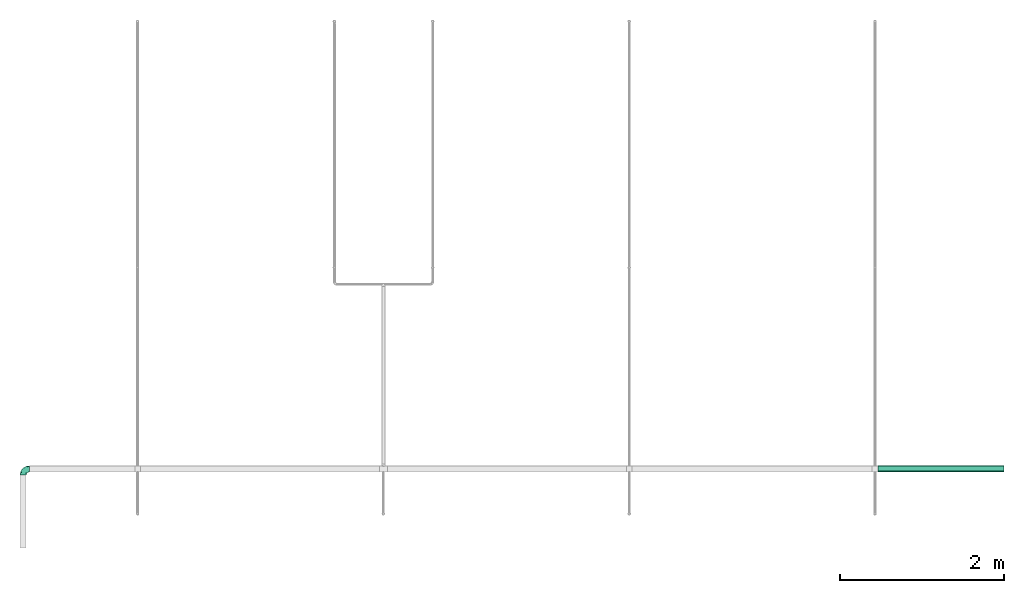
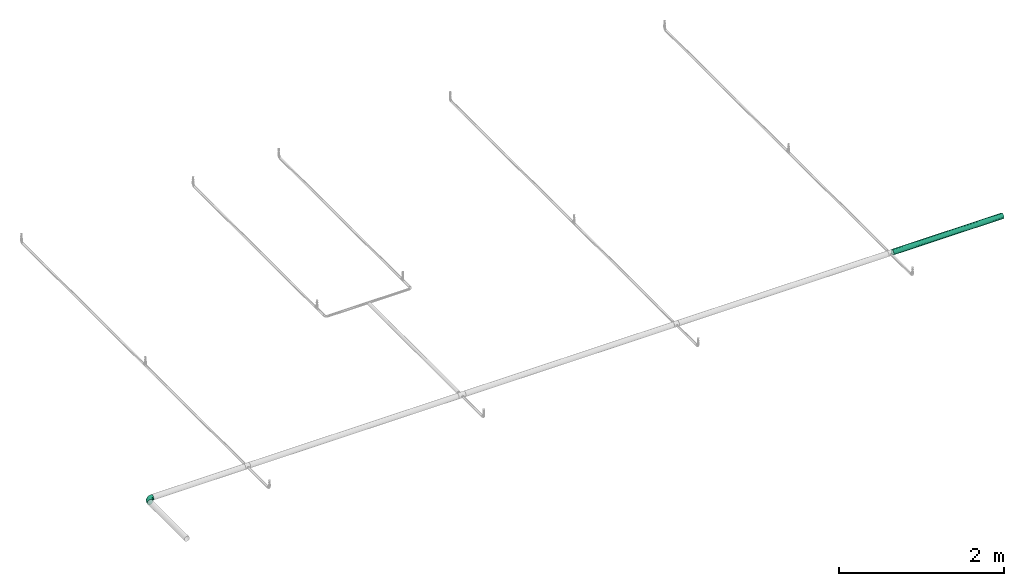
# One storey, part 30 of 31: 1 flow fitting, 1 flow segment.
"""IFC2X3 building model written with IfcOpenShell, lengths in millimetres."""

import ifcopenshell
import ifcopenshell.guid

model = None  # the IFC model being written
_history = None  # IfcOwnerHistory: only IFC2X3 demands one
_inside = {}  # id of a spatial element -> (the spatial element, [elements in it])
_under = {}  # id of a project, library or spatial element -> (it, [spatial elements below it])
_declared = {}  # id of a project -> (the project, [libraries it declares])
_typed = {}  # id of a type object -> (the type object, [elements of that type])
_made_of = {}  # id of a material, layer set ... -> (it, [elements and type objects made of it])


def new_model(schema):
    """Start an empty IFC model of exactly this schema.

    Asked for "IFC4X3", IfcOpenShell would pick the latest addendum, in which some entities
    have other attributes; the version numbers below select the first issue.
    IFC2X3 requires an IfcOwnerHistory on every rooted entity: one is made here for all.
    """
    global model, _history
    if schema == "IFC4X3":
        model = ifcopenshell.file(schema_version=(4, 3, 0, 0))
    else:
        model = ifcopenshell.file(schema=schema)
    _inside.clear()
    _under.clear()
    _declared.clear()
    _typed.clear()
    _made_of.clear()
    _history = None
    if model.schema == "IFC2X3":
        org = make("IfcOrganization", Name="unknown")
        user = make(
            "IfcPersonAndOrganization",
            ThePerson=make("IfcPerson", FamilyName="unknown"),
            TheOrganization=org,
        )
        app = make(
            "IfcApplication",
            ApplicationDeveloper=org,
            Version="unknown",
            ApplicationFullName="unknown",
            ApplicationIdentifier="unknown",
        )
        _history = make(
            "IfcOwnerHistory",
            OwningUser=user,
            OwningApplication=app,
            ChangeAction="ADDED",
            CreationDate=0,
        )
    return model


def make(cls, **values):
    """One entity of the class cls with the attributes given. An attribute that is None is left unset."""
    return model.create_entity(
        cls, **{name: value for name, value in values.items() if value is not None}
    )


def entity(cls, *values):
    """Any entity or typed value of the class cls, its attributes in the order of the schema. None: left unset."""
    e = model.create_entity(cls)
    for i, value in enumerate(values):
        if value is not None:
            e[i] = value
    return e


def rooted(cls, **values):
    """An entity with a GlobalId (a new one), such as an element, a storey or a relation."""
    return make(cls, GlobalId=ifcopenshell.guid.new(), OwnerHistory=_history, **values)


def si_unit(unit_type, name, prefix=None):
    """IfcSIUnit, for example si_unit("LENGTHUNIT", "METRE", prefix="MILLI")."""
    return make("IfcSIUnit", UnitType=unit_type, Prefix=prefix, Name=name)


def converted_unit(unit_type, name, factor, base, dimensions=None, offset=None):
    """IfcConversionBasedUnit, such as the inch: factor (a typed value) times the base unit."""
    return make(
        "IfcConversionBasedUnit"
        if offset is None
        else "IfcConversionBasedUnitWithOffset",
        ConversionOffset=offset,
        Dimensions=None
        if dimensions is None
        else entity("IfcDimensionalExponents", *dimensions),
        UnitType=unit_type,
        Name=name,
        ConversionFactor=make(
            "IfcMeasureWithUnit", ValueComponent=factor, UnitComponent=base
        ),
    )


def derived_unit(unit_type, elements):
    """IfcDerivedUnit: a product of units, each with its exponent."""
    return make(
        "IfcDerivedUnit",
        Elements=[
            make("IfcDerivedUnitElement", Unit=unit, Exponent=power)
            for unit, power in elements
        ],
        UnitType=unit_type,
    )


def assignment(units):
    """IfcUnitAssignment: the units of a project."""
    return None if units is None else make("IfcUnitAssignment", Units=units)


def point(xyz):
    """IfcCartesianPoint."""
    return None if xyz is None else make("IfcCartesianPoint", Coordinates=xyz)


def direction(xyz):
    """IfcDirection."""
    return None if xyz is None else make("IfcDirection", DirectionRatios=xyz)


def frame(location, z_axis=None, x_axis=None):
    """IfcAxis2Placement3D, a coordinate frame: its origin and axes. An axis left out is left unset."""
    return make(
        "IfcAxis2Placement3D",
        Location=point(location),
        Axis=direction(z_axis),
        RefDirection=direction(x_axis),
    )


def origin_with_axes():
    """The frame at (0, 0, 0) with the z axis (0, 0, 1) and the x axis (1, 0, 0) written out."""
    return frame((0.0, 0.0, 0.0), z_axis=(0.0, 0.0, 1.0), x_axis=(1.0, 0.0, 0.0))


def place(relative_to, where):
    """IfcLocalPlacement: puts the frame where relative to a parent placement (None: the world)."""
    return make(
        "IfcLocalPlacement", PlacementRelTo=relative_to, RelativePlacement=where
    )


def context(
    kind, dimensions, precision=None, world=None, true_north=None, identifier=None
):
    """IfcGeometricRepresentationContext, for example the 3D "Model" context."""
    return make(
        "IfcGeometricRepresentationContext",
        ContextIdentifier=identifier,
        ContextType=kind,
        CoordinateSpaceDimension=dimensions,
        Precision=precision,
        WorldCoordinateSystem=world,
        TrueNorth=true_north,
    )


def subcontext(parent, identifier, kind, view, scale=None):
    """IfcGeometricRepresentationSubContext, for example "Body" below "Model"."""
    return make(
        "IfcGeometricRepresentationSubContext",
        ContextIdentifier=identifier,
        ContextType=kind,
        ParentContext=parent,
        TargetScale=scale,
        TargetView=view,
    )


def project(units=None, contexts=None):
    """IfcProject with its units and contexts."""
    return rooted(
        "IfcProject",
        Name="project",
        RepresentationContexts=contexts,
        UnitsInContext=assignment(units),
    )


def spatial(cls, under=None, at=None, **own):
    """A site, building, storey or space (cls), placed at a placement, below another one or the project."""
    s = rooted(cls, ObjectPlacement=at, **own)
    if under is not None:
        _under.setdefault(under.id(), (under, []))[1].append(s)
    return s


def faces_of(points, faces, orient=None, outer=None):
    """IfcFace entities. A face is a list of loops; a loop is a list of indices into points, from 0.

    orient and outer hold one flag for each loop. By default every Orientation is true, the
    first loop of a face is its IfcFaceOuterBound and the others are IfcFaceBound.
    """
    made = []
    for i, loops in enumerate(faces):
        bounds = []
        for j, loop in enumerate(loops):
            is_outer = j == 0 if outer is None else outer[i][j]
            bounds.append(
                make(
                    "IfcFaceOuterBound" if is_outer else "IfcFaceBound",
                    Bound=make("IfcPolyLoop", Polygon=[points[k] for k in loop]),
                    Orientation=True if orient is None else orient[i][j],
                )
            )
        made.append(make("IfcFace", Bounds=bounds))
    return made


def open_shell(faces, orient=None, outer=None):
    """The faces of one IfcOpenShell. surface_model builds it on its shared points."""
    return ("IfcOpenShell", faces, orient, outer)


def faceted_brep(points, faces, orient=None, outer=None, voids=None):
    """IfcFacetedBrep: a solid bounded by flat faces; with voids (closed shells), ...WithVoids."""
    shared = [point(p) for p in points]
    hull = make("IfcClosedShell", CfsFaces=faces_of(shared, faces, orient, outer))
    if voids is None:
        return make("IfcFacetedBrep", Outer=hull)
    return make(
        "IfcFacetedBrepWithVoids",
        Outer=hull,
        Voids=[
            make(cls, CfsFaces=faces_of(shared, fs, o, b)) for cls, fs, o, b in voids
        ],
    )


def surface_model(cls, points, shells):
    """IfcFaceBasedSurfaceModel or IfcShellBasedSurfaceModel (cls): surfaces that need not close."""
    shared = [point(p) for p in points]
    made = [make(c, CfsFaces=faces_of(shared, fs, o, b)) for c, fs, o, b in shells]
    if cls == "IfcFaceBasedSurfaceModel":
        return make(cls, FbsmFaces=made)
    return make(cls, SbsmBoundary=made)


def shape(context_of_items, identifier, shape_type, items):
    """IfcShapeRepresentation: the items that make up one representation, for example the "Body"."""
    return make(
        "IfcShapeRepresentation",
        ContextOfItems=context_of_items,
        RepresentationIdentifier=identifier,
        RepresentationType=shape_type,
        Items=items,
    )


def source(mapping_origin, context_of_items, identifier, shape_type, items):
    """IfcRepresentationMap: a shape defined once, which mapped items show again and again."""
    return make(
        "IfcRepresentationMap",
        MappingOrigin=mapping_origin,
        MappedRepresentation=shape(context_of_items, identifier, shape_type, items),
    )


def transform(
    local_origin,
    x_axis=None,
    y_axis=None,
    z_axis=None,
    scale=None,
    scale2=None,
    scale3=None,
    uniform=True,
):
    """IfcCartesianTransformationOperator3D, or its non-uniform kind. x_axis, y_axis, z_axis: its Axis1, 2, 3."""
    if uniform:
        return make(
            "IfcCartesianTransformationOperator3D",
            Axis1=direction(x_axis),
            Axis2=direction(y_axis),
            LocalOrigin=point(local_origin),
            Scale=scale,
            Axis3=direction(z_axis),
        )
    return make(
        "IfcCartesianTransformationOperator3DnonUniform",
        Axis1=direction(x_axis),
        Axis2=direction(y_axis),
        LocalOrigin=point(local_origin),
        Scale=scale,
        Axis3=direction(z_axis),
        Scale2=scale2,
        Scale3=scale3,
    )


def mapped(mapping_source, mapping_target):
    """IfcMappedItem: shows the shape of a source again, moved by a transform."""
    return make(
        "IfcMappedItem", MappingSource=mapping_source, MappingTarget=mapping_target
    )


def made_of(thing, what):
    """Note that an element or type object is made of a material, layer set ...; save() writes the relation."""
    if what is not None:
        _made_of.setdefault(what.id(), (what, []))[1].append(thing)
    return thing


def type_object(cls, material=None, **own):
    """A type object (cls), such as IfcWallType, which elements share."""
    return made_of(rooted(cls, **own), material)


def element(
    cls,
    number,
    at=None,
    inside=None,
    cuts=None,
    type_object=None,
    material=None,
    context=None,
    identifier="Body",
    shape_type=None,
    held_by="IfcProductDefinitionShape",
    body=None,
    shapes=None,
    **own,
):
    """One element of the class cls, such as IfcWall. Its Tag is "e" and its number.

    at: its placement. inside: the storey or other place that contains it. cuts: it is an
    opening in that element (IfcRelVoidsElement). A single representation is given by context,
    identifier, shape_type and body (its items); several are given by shapes. held_by: the class
    of the entity that holds the representations. save() writes the other relations.
    """
    e = rooted(cls, Tag="e%d" % number, ObjectPlacement=at, **own)
    if body is not None:
        shapes = [shape(context, identifier, shape_type, body)]
    if shapes is not None:
        e.Representation = make(held_by, Representations=shapes)
    if inside is not None:
        _inside.setdefault(inside.id(), (inside, []))[1].append(e)
    if cuts is not None:
        rooted(
            "IfcRelVoidsElement", RelatingBuildingElement=cuts, RelatedOpeningElement=e
        )
    if type_object is not None:
        _typed.setdefault(type_object.id(), (type_object, []))[1].append(e)
    return made_of(e, material)


def aggregate(whole, parts):
    """IfcRelAggregates: a whole, such as a stair, and the parts it consists of."""
    return rooted("IfcRelAggregates", RelatingObject=whole, RelatedObjects=parts)


def save(model, path):
    """Write the relations noted so far, then the file.

    IfcRelAggregates (storeys below a building ...), IfcRelContainedInSpatialStructure (elements
    in a storey), IfcRelDefinesByType, IfcRelAssociatesMaterial and IfcRelDeclares: one each for
    every whole, place, type object, material and project.
    """
    for whole, parts in _under.values():
        aggregate(whole, parts)
    for where, things in _inside.values():
        rooted(
            "IfcRelContainedInSpatialStructure",
            RelatedElements=things,
            RelatingStructure=where,
        )
    for kind, things in _typed.values():
        rooted("IfcRelDefinesByType", RelatedObjects=things, RelatingType=kind)
    for what, things in _made_of.values():
        rooted("IfcRelAssociatesMaterial", RelatedObjects=things, RelatingMaterial=what)
    for by, libraries in _declared.values():
        rooted("IfcRelDeclares", RelatingContext=by, RelatedDefinitions=libraries)
    model.write(path)


model = new_model("IFC2X3")

# Units and contexts
model_context = context("Model", 3, precision=0.01, world=frame((0.0, 4.29681676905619e-09, 0.0)), true_north=direction((4.01073788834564e-13, 1.0)))
plan_context = context("Plan", 3, precision=0.01, world=frame((0.0, 4.29681676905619e-09, 0.0)), true_north=direction((4.01073788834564e-13, 1.0)))
body_context = subcontext(model_context, "Body", "Model", "MODEL_VIEW")
ifc_project = project(units=[converted_unit("PLANEANGLEUNIT", "DEGREE", entity("IfcPositiveLengthMeasure", 0.0174532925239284), si_unit("PLANEANGLEUNIT", "RADIAN"), dimensions=[0, 0, 0, 0, 0, 0, 0]), si_unit("AREAUNIT", "SQUARE_METRE"), si_unit("LENGTHUNIT", "METRE", prefix="MILLI"), si_unit("MASSUNIT", "GRAM", prefix="KILO"), si_unit("POWERUNIT", "WATT"), si_unit("PRESSUREUNIT", "PASCAL", prefix="KILO"), si_unit("FORCEUNIT", "NEWTON", prefix="KILO"), si_unit("ELECTRICVOLTAGEUNIT", "VOLT"), si_unit("ELECTRICCURRENTUNIT", "AMPERE"), si_unit("THERMODYNAMICTEMPERATUREUNIT", "DEGREE_CELSIUS"), si_unit("TIMEUNIT", "SECOND"), si_unit("VOLUMEUNIT", "CUBIC_METRE"), derived_unit("LINEARVELOCITYUNIT", [(si_unit("LENGTHUNIT", "METRE"), 1), (si_unit("TIMEUNIT", "SECOND"), -1)]), derived_unit("VOLUMETRICFLOWRATEUNIT", [(si_unit("VOLUMEUNIT", "CUBIC_METRE"), 1), (si_unit("TIMEUNIT", "SECOND"), -1)]), derived_unit("THERMALTRANSMITTANCEUNIT", [(si_unit("POWERUNIT", "WATT"), 1), (si_unit("THERMODYNAMICTEMPERATUREUNIT", "KELVIN"), -1), (si_unit("AREAUNIT", "SQUARE_METRE"), -1)]), derived_unit("SOUNDPRESSUREUNIT", [(si_unit("PRESSUREUNIT", "PASCAL"), 1)])], contexts=[model_context, plan_context])

# Site, building, storey
site_placement = place(None, frame((0.0, -4.29681676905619e-09, 0.0), z_axis=(0.0, 0.0, 1.0), x_axis=(1.0, 0.0, 0.0)))
site = spatial("IfcSite", under=ifc_project, at=site_placement, CompositionType="ELEMENT")
building_placement = place(site_placement, frame((0.0, 4.29681676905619e-09, 0.0), z_axis=(0.0, 0.0, 1.0), x_axis=(1.0, 0.0, 0.0)))
building = spatial("IfcBuilding", under=site, at=building_placement, Name="mc-building", CompositionType="ELEMENT")
storey_placement = place(building_placement, frame((0.0, 0.0, 200300.0), z_axis=(0.0, 0.0, 1.0), x_axis=(1.0, 0.0, 0.0)))
storey = spatial("IfcBuildingStorey", under=building, at=storey_placement, Name="Nivå C", CompositionType="ELEMENT", Elevation=200300.0)

# Flow fitting
pipe_fitting_type = type_object("IfcPipeFittingType", Name="magi_pipe_fe_elbow_short_001", PredefinedType="BEND")
shared_shape = source(origin_with_axes(), body_context, "Body", "SurfaceModel", [
    surface_model("IfcShellBasedSurfaceModel", [(-76.2, 19.05, -32.99557), (-76.2, 9.86101, -36.80177), (-76.2, 0.0, -38.1), (-76.2, 26.94077, -26.94077), (-76.2, 36.80177, -9.86101), (-76.2, 32.99557, -19.05), (-76.2, -26.94077, -26.94077), (-76.2, -36.80177, -9.86101), (-76.2, -19.05, -32.99557), (-76.2, -9.86101, -36.80177), (-76.2, -32.99557, -19.05), (-76.2, -38.1, 0.0), (-76.2, -36.80177, 9.86101), (-76.2, 26.94077, 26.94077), (-76.2, 36.80177, 9.86101), (-76.2, 32.99557, 19.05), (-76.2, 9.86101, 36.80177), (-76.2, 19.05, 32.99557), (-76.2, 0.0, 38.1), (-76.2, -32.99557, 19.05), (-76.2, -26.94077, 26.94077), (-76.2, -9.86101, 36.80177), (-76.2, -19.05, 32.99557), (-76.2, 38.1, 0.0), (0.0, 76.2, -38.1), (-9.86101, 76.2, -36.80177), (-19.05, 76.2, -32.99557), (-26.94077, 76.2, -26.94077), (-32.99557, 76.2, -19.05), (-36.80177, 76.2, -9.86101), (26.94077, 76.2, -26.94077), (36.80177, 76.2, -9.86101), (9.86101, 76.2, -36.80177), (19.05, 76.2, -32.99557), (32.99557, 76.2, -19.05), (36.80177, 76.2, 9.86101), (38.1, 76.2, 0.0), (-36.80177, 76.2, 9.86101), (-26.94077, 76.2, 26.94077), (-32.99557, 76.2, 19.05), (-19.05, 76.2, 32.99557), (-9.86101, 76.2, 36.80177), (0.0, 76.2, 38.1), (26.94077, 76.2, 26.94077), (32.99557, 76.2, 19.05), (9.86101, 76.2, 36.80177), (19.05, 76.2, 32.99557), (-38.1, 76.2, 0.0), (-51.47253, -33.41495, 11.97429), (-55.87921, -29.59735, 21.38675), (-40.87936, -32.50576, 0.0), (-57.46182, -35.13216, 0.0), (-9.7569, -13.15819, 14.69187), (-2.65186, -10.17769, 8.01257), (2.20082, -2.20082, 15.78668), (-58.2046, -5.04721, 37.4484), (-53.35237, 5.84022, 38.03506), (13.01533, 9.30417, 14.3119), (23.26567, 31.00373, 18.95093), (8.92292, 13.82363, 24.31711), (-37.93212, -0.34191, 36.92855), (-55.73356, -14.37507, 34.26516), (-29.5907, -8.99996, 31.84562), (-48.87429, -21.76577, 28.30344), (-34.13735, -29.20196, 7.83838), (-24.94775, -24.3882, 0.0), (-13.82363, -8.92292, 24.31711), (-6.80575, 6.80575, 31.14998), (-37.24299, 60.80967, 16.55959), (-31.82754, 59.31737, 25.03043), (-14.22204, 65.71998, 35.68746), (-5.22176, 56.99222, 38.00642), (-58.73143, 14.94265, 35.9909), (-9.94517, 25.51838, 37.4103), (-18.93111, 6.98952, 35.57772), (-3.89226, 20.58438, 35.01344), (-65.91802, 23.07271, 31.04479), (-13.24152, 37.4675, 38.03164), (-28.22122, 28.22122, 37.17425), (-22.68668, 16.64938, 37.90374), (-60.23482, 40.58212, 8.37688), (-60.8286, 37.23683, 16.55705), (-47.30619, 47.30619, 14.2421), (-59.55922, 31.76102, 25.00381), (21.76577, 48.87429, 28.30344), (-39.51357, 50.50487, 21.56421), (14.37507, 55.73356, 34.26516), (29.59735, 55.87921, 21.38675), (33.41495, 51.47253, 11.97429), (-9.01615, -16.27064, 0.0), (-18.50075, -20.95742, 9.87146), (5.04721, 58.2046, 37.4484), (-41.86713, 16.32002, 37.41817), (-37.38612, 9.33613, 38.08374), (24.3882, 24.94775, 0.0), (29.20196, 34.13735, 7.83838), (20.95742, 18.50075, 9.87146), (35.13216, 57.46182, 0.0), (-40.50473, 25.85184, 35.24027), (-31.00373, -23.26567, 18.95093), (-27.62233, 49.24446, 32.02197), (-23.27638, 63.88751, 31.20285), (-40.10509, 61.46399, 8.17366), (-47.75011, 49.97248, 6.70535), (17.55292, 30.69115, 25.82241), (8.99996, 29.5907, 31.84562), (-43.20443, 57.15, 0.0), (-35.27088, 40.23417, 31.3068), (-52.46543, 25.86294, 32.08413), (-0.58232, 0.58231, 22.50977), (-21.74145, 39.43998, 36.62577), (-30.35377, 36.8865, 34.66668), (-16.47755, 51.62643, 36.28492), (-40.16133, 42.54966, 26.98796), (-48.93373, 40.93898, 21.24545), (0.34191, 37.93212, 36.92855), (-30.54899, -16.70018, 26.56572), (10.38979, 2.76708, 7.59679), (32.50576, 40.87936, 0.0), (16.27064, 9.01615, 0.0), (-57.15, 43.20443, 0.0), (3.62725, -3.62725, 0.0), (-56.18403, 32.81229, -25.37784), (-60.79374, 37.24818, -16.56172), (-31.12583, -9.61531, -31.96506), (-33.08389, -0.47526, -36.23756), (-15.30809, -0.63756, -31.219), (-60.31522, 4.8175, -37.976), (-55.58208, -34.10815, -12.42093), (-47.87166, -28.25416, -20.6363), (-36.35476, -28.57081, -12.78243), (-55.4317, 15.55274, -36.12913), (-41.97308, 9.00674, -38.09177), (-32.8123, 56.18403, -25.37784), (-61.68117, 39.97816, -8.33686), (-23.91371, 59.81378, -31.51803), (-15.55274, 55.4317, -36.12913), (-48.48008, 48.48008, -9.09668), (22.76239, 55.12076, -28.76608), (13.14871, 48.24989, -33.88525), (15.02018, 64.34702, -34.67535), (-7.42295, -13.4022, -10.03386), (-7.53093, -9.8797, -17.36177), (4.09889, -3.23385, -10.05311), (-22.23209, 20.60173, -38.07837), (-36.11879, 22.54399, -36.96599), (-59.81378, 23.91371, -31.51803), (-64.14494, -30.32973, -22.13621), (-37.06617, 43.2809, -28.69704), (-35.21221, 35.21221, -33.45314), (-46.56802, 32.18433, -30.26847), (3.32253, -0.70027, -16.3296), (-55.12076, -22.76239, -28.76608), (28.25416, 47.87166, -20.6363), (34.10815, 55.58208, -12.42093), (28.57081, 36.35476, -12.78243), (-64.34702, -15.02018, -34.67535), (4.80394, 56.13349, -37.40338), (-24.08639, -18.54476, -20.78452), (-28.44745, -15.54194, -26.65272), (-13.81153, -9.41447, -23.82138), (-41.58053, -17.39667, -29.91543), (-48.24989, -13.14871, -33.88525), (-56.1335, -4.80394, -37.40338), (-28.5499, 46.87201, -32.27447), (-39.97816, 61.68117, -8.33686), (-4.8175, 60.31522, -37.976), (-13.45022, 13.45022, -35.97664), (0.47526, 33.08389, -36.23756), (1.60394, 17.89715, -31.77365), (-37.24818, 60.79374, -16.56172), (-45.75928, 45.75928, -18.77942), (30.32973, 64.14494, -22.13621), (22.08018, 30.6107, -20.46174), (12.28189, 14.44402, -21.13272), (15.54194, 28.44745, -26.65272), (7.87454, 32.5264, -33.28409), (-9.00674, 41.97308, -38.09177), (-46.32128, 24.51975, -34.33978), (-22.71812, 37.0764, -36.7817), (-0.36118, 0.36118, -22.07635), (-17.64772, -21.30183, -6.55407), (19.53658, 18.92928, -14.18962), (21.30183, 17.64772, -6.55407), (4.4885, 11.61303, -26.72553), (-18.92929, -19.53658, -14.18962)], [open_shell([[[0, 1, 2]], [[3, 0, 2]], [[4, 5, 3]], [[6, 3, 2]], [[4, 3, 7]], [[8, 6, 9]], [[6, 2, 9]], [[10, 7, 6]], [[6, 7, 3]], [[11, 12, 7]], [[12, 4, 7]], [[13, 14, 4]], [[15, 14, 13]], [[16, 17, 13]], [[4, 12, 13]], [[13, 18, 16]], [[19, 20, 12]], [[21, 12, 20]], [[22, 21, 20]], [[21, 13, 12]], [[21, 18, 13]], [[23, 4, 14]], [[24, 25, 26]], [[24, 26, 27]], [[27, 28, 29]], [[24, 27, 30]], [[31, 27, 29]], [[32, 30, 33]], [[32, 24, 30]], [[30, 31, 34]], [[27, 31, 30]], [[31, 35, 36]], [[31, 29, 35]], [[29, 37, 38]], [[38, 37, 39]], [[38, 40, 41]], [[29, 38, 35]], [[42, 38, 41]], [[35, 43, 44]], [[43, 35, 45]], [[43, 45, 46]], [[35, 38, 45]], [[38, 42, 45]], [[37, 29, 47]], [[48, 49, 19]], [[50, 48, 51]], [[52, 53, 54]], [[12, 48, 19]], [[12, 51, 48]], [[18, 55, 56]], [[19, 49, 20]], [[57, 58, 59]], [[60, 61, 62]], [[63, 22, 20]], [[63, 61, 22]], [[64, 50, 65]], [[62, 66, 67]], [[39, 68, 69]], [[41, 70, 71]], [[16, 72, 17]], [[73, 74, 75]], [[17, 76, 13]], [[21, 55, 18]], [[77, 78, 79]], [[80, 81, 82]], [[15, 83, 81]], [[84, 43, 46]], [[23, 14, 80]], [[14, 15, 81]], [[68, 85, 69]], [[83, 15, 13]], [[18, 56, 16]], [[46, 86, 84]], [[13, 76, 83]], [[87, 58, 88]], [[39, 37, 68]], [[89, 90, 65]], [[42, 91, 45]], [[65, 90, 64]], [[42, 41, 71]], [[92, 93, 79]], [[88, 35, 44]], [[44, 43, 87]], [[87, 88, 44]], [[94, 95, 96]], [[88, 97, 35]], [[98, 72, 92]], [[49, 99, 63]], [[69, 100, 101]], [[82, 102, 103]], [[104, 105, 59]], [[106, 102, 47]], [[98, 107, 108]], [[102, 82, 68]], [[86, 46, 45]], [[69, 38, 39]], [[109, 54, 57]], [[110, 100, 111]], [[22, 61, 21]], [[101, 40, 38]], [[70, 41, 40]], [[112, 77, 71]], [[84, 86, 105]], [[96, 95, 58]], [[100, 69, 113]], [[72, 16, 56]], [[108, 113, 83]], [[81, 114, 82]], [[112, 110, 77]], [[91, 71, 115]], [[62, 61, 63]], [[55, 61, 60]], [[116, 99, 66]], [[74, 62, 67]], [[91, 86, 45]], [[105, 86, 115]], [[75, 105, 115]], [[109, 67, 66]], [[59, 105, 67]], [[48, 64, 99]], [[99, 49, 48]], [[63, 20, 49]], [[43, 84, 87]], [[58, 87, 84]], [[92, 72, 56]], [[76, 72, 108]], [[102, 68, 37]], [[82, 114, 85]], [[98, 111, 107]], [[112, 70, 101]], [[114, 83, 113]], [[82, 103, 80]], [[92, 79, 78]], [[115, 71, 77]], [[74, 79, 60]], [[77, 79, 73]], [[71, 91, 42]], [[86, 91, 115]], [[61, 55, 21]], [[56, 55, 60]], [[57, 54, 117]], [[104, 59, 58]], [[116, 66, 62]], [[52, 99, 90]], [[12, 11, 51]], [[97, 88, 118]], [[97, 36, 35]], [[53, 90, 89]], [[90, 53, 52]], [[94, 96, 119]], [[88, 95, 118]], [[117, 54, 53]], [[92, 56, 93]], [[98, 92, 78]], [[111, 98, 78]], [[72, 98, 108]], [[110, 111, 78]], [[107, 111, 100]], [[47, 102, 37]], [[102, 106, 103]], [[106, 120, 103]], [[103, 120, 80]], [[23, 80, 120]], [[14, 81, 80]], [[56, 60, 93]], [[60, 79, 93]], [[117, 121, 119]], [[121, 117, 53]], [[53, 89, 121]], [[119, 96, 117]], [[117, 96, 57]], [[77, 110, 78]], [[100, 110, 112]], [[83, 114, 81]], [[85, 114, 113]], [[69, 85, 113]], [[82, 85, 68]], [[109, 52, 54]], [[99, 52, 66]], [[69, 101, 38]], [[112, 101, 100]], [[100, 113, 107]], [[108, 107, 113]], [[62, 74, 60]], [[75, 74, 67]], [[105, 75, 67]], [[73, 75, 115]], [[77, 73, 115]], [[74, 73, 79]], [[99, 64, 90]], [[50, 64, 48]], [[118, 95, 94]], [[58, 95, 88]], [[58, 57, 96]], [[109, 57, 59]], [[72, 76, 17]], [[83, 76, 108]], [[101, 70, 40]], [[71, 70, 112]], [[58, 84, 104]], [[105, 104, 84]], [[67, 109, 59]], [[52, 109, 66]], [[62, 63, 116]], [[99, 116, 63]], [[122, 5, 123]], [[124, 125, 126]], [[2, 1, 127]], [[128, 129, 130]], [[127, 131, 132]], [[28, 27, 133]], [[120, 134, 23]], [[135, 26, 136]], [[123, 134, 137]], [[138, 139, 140]], [[122, 3, 5]], [[141, 142, 143]], [[144, 132, 145]], [[131, 0, 146]], [[128, 10, 147]], [[148, 149, 150]], [[128, 51, 7]], [[142, 151, 143]], [[152, 6, 8]], [[153, 154, 155]], [[156, 152, 8]], [[32, 157, 24]], [[158, 159, 160]], [[147, 10, 6]], [[129, 152, 161]], [[156, 8, 9]], [[162, 163, 125]], [[154, 34, 31]], [[120, 106, 137]], [[149, 148, 164]], [[47, 29, 165]], [[163, 9, 2]], [[5, 4, 123]], [[25, 166, 136]], [[167, 168, 169]], [[170, 133, 171]], [[25, 24, 166]], [[33, 30, 138]], [[157, 32, 140]], [[29, 28, 170]], [[30, 34, 172]], [[26, 135, 27]], [[132, 131, 145]], [[32, 33, 140]], [[173, 174, 175]], [[169, 168, 176]], [[25, 136, 26]], [[175, 138, 173]], [[168, 177, 157]], [[163, 162, 156]], [[153, 172, 154]], [[10, 128, 7]], [[154, 97, 118]], [[131, 178, 145]], [[0, 3, 146]], [[175, 139, 138]], [[155, 118, 94]], [[131, 1, 0]], [[146, 178, 131]], [[170, 137, 165]], [[149, 179, 145]], [[171, 133, 148]], [[160, 180, 142]], [[65, 181, 89]], [[170, 165, 29]], [[137, 171, 123]], [[172, 138, 30]], [[138, 153, 173]], [[168, 157, 139]], [[166, 157, 177]], [[176, 175, 169]], [[168, 167, 144]], [[154, 31, 97]], [[155, 182, 173]], [[162, 124, 161]], [[147, 152, 129]], [[127, 163, 2]], [[132, 144, 125]], [[132, 125, 163]], [[125, 167, 126]], [[129, 158, 130]], [[31, 36, 97]], [[143, 182, 183]], [[169, 126, 167]], [[3, 122, 146]], [[178, 150, 149]], [[136, 179, 164]], [[133, 27, 135]], [[123, 4, 134]], [[122, 123, 171]], [[133, 170, 28]], [[137, 170, 171]], [[184, 175, 174]], [[180, 160, 126]], [[126, 169, 184]], [[126, 159, 124]], [[51, 128, 50]], [[51, 11, 7]], [[131, 127, 1]], [[163, 127, 132]], [[157, 166, 24]], [[136, 166, 177]], [[164, 179, 149]], [[144, 167, 125]], [[179, 144, 145]], [[168, 144, 177]], [[136, 177, 179]], [[144, 179, 177]], [[141, 121, 89]], [[89, 181, 141]], [[154, 118, 155]], [[183, 155, 94]], [[143, 183, 119]], [[119, 183, 94]], [[155, 183, 182]], [[181, 130, 185]], [[50, 128, 130]], [[130, 181, 65]], [[50, 130, 65]], [[141, 181, 185]], [[142, 141, 185]], [[143, 121, 141]], [[158, 160, 142]], [[142, 180, 151]], [[158, 142, 185]], [[126, 160, 159]], [[130, 158, 185]], [[129, 159, 158]], [[23, 134, 4]], [[120, 137, 134]], [[137, 106, 165]], [[47, 165, 106]], [[174, 151, 180]], [[182, 143, 151]], [[150, 146, 122]], [[149, 145, 178]], [[146, 150, 178]], [[122, 171, 148]], [[148, 150, 122]], [[164, 133, 135]], [[133, 164, 148]], [[164, 135, 136]], [[138, 140, 33]], [[157, 140, 139]], [[154, 172, 34]], [[138, 172, 153]], [[163, 156, 9]], [[152, 156, 162]], [[152, 147, 6]], [[128, 147, 129]], [[155, 173, 153]], [[174, 173, 182]], [[151, 174, 182]], [[174, 180, 184]], [[126, 184, 180]], [[175, 184, 169]], [[168, 139, 176]], [[175, 176, 139]], [[161, 124, 159]], [[125, 124, 162]], [[129, 161, 159]], [[162, 161, 152]], [[143, 119, 121]]])]),
])
flow_fitting_placement = place(storey_placement, frame((601103.48168, 398472.0, 2900.0), z_axis=(0.0, 0.0, 1.0), x_axis=(-1.0, 0.0, 0.0)))
element("IfcFlowFitting", 1, at=flow_fitting_placement, inside=storey, type_object=pipe_fitting_type, Name="magi_pipe_fe_elbow_short_001", context=body_context, shape_type="MappedRepresentation", body=[
    mapped(shared_shape, transform((0.0, 0.0, 0.0), scale=1.0)),
])

# Flow segment
pipe_segment_type = type_object("IfcPipeSegmentType", Name="Stålrør normaltykke", PredefinedType="RIGIDSEGMENT")
flow_segment_placement = place(storey_placement, frame((611533.8, 398472.0, 2900.0), z_axis=(0.0, 0.0, 1.0), x_axis=(1.0, 0.0, 0.0)))
element("IfcFlowSegment", 2, at=flow_segment_placement, inside=storey, type_object=pipe_segment_type, Name="Stålrør normaltykke", context=body_context, shape_type="Brep", body=[
    faceted_brep([(1540.70000000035, 36.0, 0.0), (1540.70000000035, 35.4530791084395, -6.25133439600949), (0.0, 35.4530791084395, -6.25133439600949), (0.0, 36.0, 0.0), (1540.70000000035, 33.8289343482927, -12.3127251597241), (0.0, 33.8289343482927, -12.3127251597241), (1540.70000000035, 31.1769145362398, -18.0), (0.0, 31.1769145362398, -18.0), (1540.70000000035, 27.5775999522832, -23.1403539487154), (0.0, 27.5775999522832, -23.1403539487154), (1540.70000000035, 23.1403539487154, -27.5775999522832), (0.0, 23.1403539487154, -27.5775999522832), (1540.70000000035, 18.0, -31.1769145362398), (0.0, 18.0, -31.1769145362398), (1540.70000000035, 12.3127251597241, -33.8289343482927), (0.0, 12.3127251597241, -33.8289343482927), (1540.70000000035, 6.25133439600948, -35.4530791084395), (0.0, 6.25133439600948, -35.4530791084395), (1540.70000000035, -6.61309271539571e-15, -36.0), (0.0, -6.61309271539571e-15, -36.0), (1540.70000000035, -6.25133439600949, -35.4530791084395), (0.0, -6.25133439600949, -35.4530791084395), (1540.70000000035, -12.3127251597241, -33.8289343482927), (0.0, -12.3127251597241, -33.8289343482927), (1540.70000000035, -18.0, -31.1769145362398), (0.0, -18.0, -31.1769145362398), (1540.70000000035, -23.1403539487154, -27.5775999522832), (0.0, -23.1403539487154, -27.5775999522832), (1540.70000000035, -27.5775999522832, -23.1403539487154), (0.0, -27.5775999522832, -23.1403539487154), (1540.70000000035, -31.1769145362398, -18.0), (0.0, -31.1769145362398, -18.0), (1540.70000000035, -33.8289343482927, -12.3127251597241), (0.0, -33.8289343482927, -12.3127251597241), (1540.70000000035, -35.4530791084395, -6.25133439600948), (0.0, -35.4530791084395, -6.25133439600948), (1540.70000000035, -36.0, 4.40872847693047e-15), (0.0, -36.0, 4.40872847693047e-15), (1540.70000000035, -35.4530791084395, 6.2513343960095), (0.0, -35.4530791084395, 6.25133439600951), (1540.70000000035, -33.8289343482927, 12.3127251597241), (0.0, -33.8289343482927, 12.3127251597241), (1540.70000000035, -31.1769145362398, 18.0), (0.0, -31.1769145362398, 18.0), (1540.70000000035, -27.5775999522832, 23.1403539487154), (0.0, -27.5775999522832, 23.1403539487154), (1540.70000000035, -23.1403539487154, 27.5775999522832), (0.0, -23.1403539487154, 27.5775999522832), (1540.70000000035, -18.0, 31.1769145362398), (0.0, -18.0, 31.1769145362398), (1540.70000000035, -12.3127251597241, 33.8289343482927), (0.0, -12.3127251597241, 33.8289343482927), (1540.70000000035, -6.25133439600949, 35.4530791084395), (0.0, -6.25133439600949, 35.4530791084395), (1540.70000000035, 2.20436423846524e-15, 36.0), (0.0, 2.20436423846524e-15, 36.0), (1540.70000000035, 6.2513343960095, 35.4530791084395), (0.0, 6.2513343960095, 35.4530791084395), (1540.70000000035, 12.3127251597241, 33.8289343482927), (0.0, 12.3127251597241, 33.8289343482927), (1540.70000000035, 18.0, 31.1769145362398), (0.0, 18.0, 31.1769145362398), (1540.70000000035, 23.1403539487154, 27.5775999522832), (0.0, 23.1403539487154, 27.5775999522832), (1540.70000000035, 27.5775999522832, 23.1403539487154), (0.0, 27.5775999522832, 23.1403539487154), (1540.70000000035, 31.1769145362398, 18.0), (0.0, 31.1769145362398, 18.0), (1540.70000000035, 33.8289343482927, 12.3127251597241), (0.0, 33.8289343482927, 12.3127251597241), (1540.70000000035, 35.4530791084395, 6.25133439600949), (0.0, 35.4530791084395, 6.25133439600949), (1540.70000000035, 37.4226946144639, -6.59863075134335), (1540.70000000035, 38.0, 0.0), (0.0, 38.0, 0.0), (0.0, 37.4226946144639, -6.59863075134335), (1540.70000000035, 37.4226946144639, 6.59863075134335), (0.0, 37.4226946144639, 6.59863075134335), (1540.70000000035, 35.7083195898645, 12.9967654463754), (0.0, 35.7083195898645, 12.9967654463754), (1540.70000000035, 32.9089653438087, 19.0), (0.0, 32.9089653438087, 19.0), (1540.70000000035, 29.1096888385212, 24.4259291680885), (0.0, 29.1096888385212, 24.4259291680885), (1540.70000000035, 24.4259291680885, 29.1096888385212), (0.0, 24.4259291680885, 29.1096888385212), (1540.70000000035, 19.0, 32.9089653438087), (0.0, 19.0, 32.9089653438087), (1540.70000000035, 12.9967654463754, 35.7083195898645), (0.0, 12.9967654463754, 35.7083195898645), (1540.70000000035, 6.59863075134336, 37.4226946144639), (0.0, 6.59863075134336, 37.4226946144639), (1540.70000000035, 2.32682891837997e-15, 38.0), (0.0, 2.32682891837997e-15, 38.0), (1540.70000000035, -6.59863075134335, 37.4226946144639), (0.0, -6.59863075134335, 37.4226946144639), (1540.70000000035, -12.9967654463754, 35.7083195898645), (0.0, -12.9967654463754, 35.7083195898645), (1540.70000000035, -19.0, 32.9089653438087), (0.0, -19.0, 32.9089653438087), (1540.70000000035, -24.4259291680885, 29.1096888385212), (0.0, -24.4259291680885, 29.1096888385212), (1540.70000000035, -29.1096888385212, 24.4259291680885), (0.0, -29.1096888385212, 24.4259291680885), (1540.70000000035, -32.9089653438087, 19.0), (0.0, -32.9089653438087, 19.0), (1540.70000000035, -35.7083195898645, 12.9967654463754), (0.0, -35.7083195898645, 12.9967654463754), (1540.70000000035, -37.4226946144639, 6.59863075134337), (0.0, -37.4226946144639, 6.59863075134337), (1540.70000000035, -38.0, 4.65365783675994e-15), (0.0, -38.0, 4.65365783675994e-15), (1540.70000000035, -37.4226946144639, -6.59863075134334), (0.0, -37.4226946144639, -6.59863075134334), (1540.70000000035, -35.7083195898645, -12.9967654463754), (0.0, -35.7083195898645, -12.9967654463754), (1540.70000000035, -32.9089653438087, -19.0), (0.0, -32.9089653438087, -19.0), (1540.70000000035, -29.1096888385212, -24.4259291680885), (0.0, -29.1096888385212, -24.4259291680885), (1540.70000000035, -24.4259291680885, -29.1096888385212), (0.0, -24.4259291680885, -29.1096888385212), (1540.70000000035, -19.0, -32.9089653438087), (0.0, -19.0, -32.9089653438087), (1540.70000000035, -12.9967654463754, -35.7083195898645), (0.0, -12.9967654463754, -35.7083195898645), (1540.70000000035, -6.59863075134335, -37.4226946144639), (0.0, -6.59863075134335, -37.4226946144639), (1540.70000000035, -6.98048675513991e-15, -38.0), (0.0, -6.98048675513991e-15, -38.0), (1540.70000000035, 6.59863075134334, -37.4226946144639), (0.0, 6.59863075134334, -37.4226946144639), (1540.70000000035, 12.9967654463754, -35.7083195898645), (0.0, 12.9967654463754, -35.7083195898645), (1540.70000000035, 19.0, -32.9089653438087), (0.0, 19.0, -32.9089653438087), (1540.70000000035, 24.4259291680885, -29.1096888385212), (0.0, 24.4259291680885, -29.1096888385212), (1540.70000000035, 29.1096888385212, -24.4259291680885), (0.0, 29.1096888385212, -24.4259291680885), (1540.70000000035, 32.9089653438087, -19.0), (0.0, 32.9089653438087, -19.0), (1540.70000000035, 35.7083195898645, -12.9967654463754), (0.0, 35.7083195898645, -12.9967654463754)], [[[0, 1, 2, 3]], [[1, 4, 5, 2]], [[4, 6, 7, 5]], [[6, 8, 9, 7]], [[8, 10, 11, 9]], [[10, 12, 13, 11]], [[12, 14, 15, 13]], [[14, 16, 17, 15]], [[16, 18, 19, 17]], [[18, 20, 21, 19]], [[20, 22, 23, 21]], [[22, 24, 25, 23]], [[24, 26, 27, 25]], [[26, 28, 29, 27]], [[28, 30, 31, 29]], [[30, 32, 33, 31]], [[32, 34, 35, 33]], [[34, 36, 37, 35]], [[36, 38, 39, 37]], [[38, 40, 41, 39]], [[40, 42, 43, 41]], [[42, 44, 45, 43]], [[44, 46, 47, 45]], [[46, 48, 49, 47]], [[48, 50, 51, 49]], [[50, 52, 53, 51]], [[52, 54, 55, 53]], [[54, 56, 57, 55]], [[56, 58, 59, 57]], [[58, 60, 61, 59]], [[60, 62, 63, 61]], [[62, 64, 65, 63]], [[64, 66, 67, 65]], [[66, 68, 69, 67]], [[68, 70, 71, 69]], [[70, 0, 3, 71]], [[72, 73, 74, 75]], [[73, 76, 77, 74]], [[76, 78, 79, 77]], [[78, 80, 81, 79]], [[80, 82, 83, 81]], [[82, 84, 85, 83]], [[84, 86, 87, 85]], [[86, 88, 89, 87]], [[88, 90, 91, 89]], [[90, 92, 93, 91]], [[92, 94, 95, 93]], [[94, 96, 97, 95]], [[96, 98, 99, 97]], [[98, 100, 101, 99]], [[100, 102, 103, 101]], [[102, 104, 105, 103]], [[104, 106, 107, 105]], [[106, 108, 109, 107]], [[108, 110, 111, 109]], [[110, 112, 113, 111]], [[112, 114, 115, 113]], [[114, 116, 117, 115]], [[116, 118, 119, 117]], [[118, 120, 121, 119]], [[120, 122, 123, 121]], [[122, 124, 125, 123]], [[124, 126, 127, 125]], [[126, 128, 129, 127]], [[128, 130, 131, 129]], [[130, 132, 133, 131]], [[132, 134, 135, 133]], [[134, 136, 137, 135]], [[136, 138, 139, 137]], [[138, 140, 141, 139]], [[140, 142, 143, 141]], [[142, 72, 75, 143]], [[75, 74, 77, 79, 81, 83, 85, 87, 89, 91, 93, 95, 97, 99, 101, 103, 105, 107, 109, 111, 113, 115, 117, 119, 121, 123, 125, 127, 129, 131, 133, 135, 137, 139, 141, 143], [3, 2, 5, 7, 9, 11, 13, 15, 17, 19, 21, 23, 25, 27, 29, 31, 33, 35, 37, 39, 41, 43, 45, 47, 49, 51, 53, 55, 57, 59, 61, 63, 65, 67, 69, 71]], [[142, 140, 138, 136, 134, 132, 130, 128, 126, 124, 122, 120, 118, 116, 114, 112, 110, 108, 106, 104, 102, 100, 98, 96, 94, 92, 90, 88, 86, 84, 82, 80, 78, 76, 73, 72], [70, 68, 66, 64, 62, 60, 58, 56, 54, 52, 50, 48, 46, 44, 42, 40, 38, 36, 34, 32, 30, 28, 26, 24, 22, 20, 18, 16, 14, 12, 10, 8, 6, 4, 1, 0]]], orient=[[False], [False], [False], [False], [False], [False], [False], [False], [False], [False], [False], [False], [False], [False], [False], [False], [False], [False], [False], [False], [False], [False], [False], [False], [False], [False], [False], [False], [False], [False], [False], [False], [False], [False], [False], [False], [False], [False], [False], [False], [False], [False], [False], [False], [False], [False], [False], [False], [False], [False], [False], [False], [False], [False], [False], [False], [False], [False], [False], [False], [False], [False], [False], [False], [False], [False], [False], [False], [False], [False], [False], [False], [False, False], [False, False]]),
])

save(model, "model.ifc")
